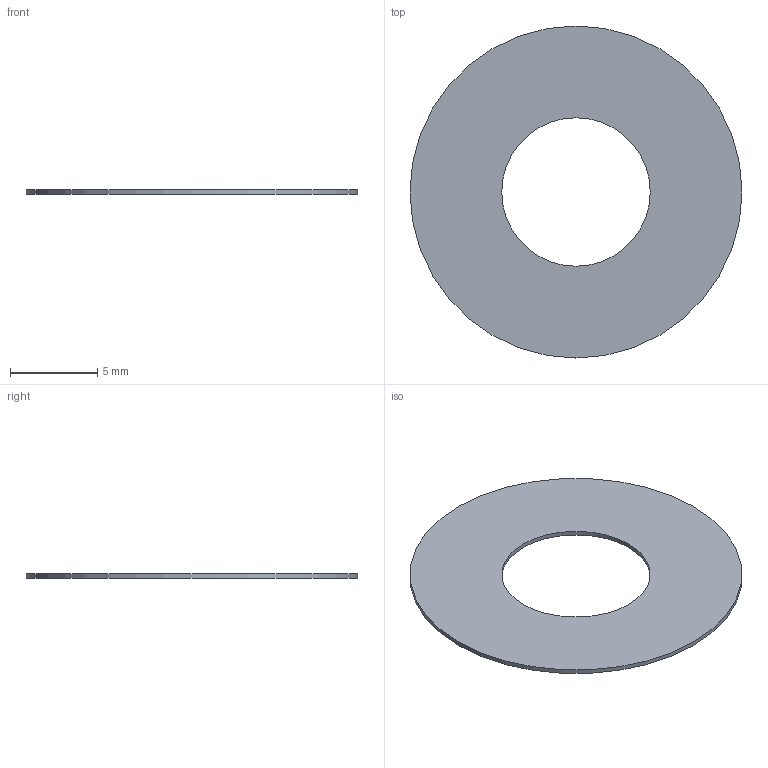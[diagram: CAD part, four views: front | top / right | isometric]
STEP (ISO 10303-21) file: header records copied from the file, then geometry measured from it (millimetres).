
FILE_DESCRIPTION(/* description */ ('Rondelle MYLAR M8-M','CAx-IF Rec.Pracs.---Representation and Presentation of Product Manufacturing Information (PMI)---4.0---2014-10-13'),/* implementation_level */ '2;1');
FILE_NAME(/* name */ 'm104002-RMYL-M8M-A.stp',/* time_stamp */ '2025-09-23T13:35:07+02:00',/* author */ ('ojackson'),/* organization */ (''),/* preprocessor_version */ 'ST-DEVELOPER v20',/* originating_system */ 'Autodesk Inventor 2025',/* authorisation */ '');
FILE_SCHEMA (('AP242_MANAGED_MODEL_BASED_3D_ENGINEERING_MIM_LF { 1 0 10303 442 1 1 4 }'));
Length unit declared in the file: millimetre
Products named in the file (1): MECAN.10.40.02
Bounding box: 19 x 19 x 0.25 mm (x, y, z)
Volume: 56.7 mm3; surface area: 475.2 mm2
Topology: 1 solids, 1 shells, 4 faces, 6 edges, 4 vertices
Faces by surface type: cylinder 2, plane 2
Full cylindrical faces by diameter (mm): 8.5 x1, 19 x1
Entity records: 204 total; most frequent: DIRECTION 32, CARTESIAN_POINT 23, AXIS2_PLACEMENT_3D 15, ORIENTED_EDGE 12, STYLED_ITEM 6, EDGE_LOOP 6, CIRCLE 6, EDGE_CURVE 6
